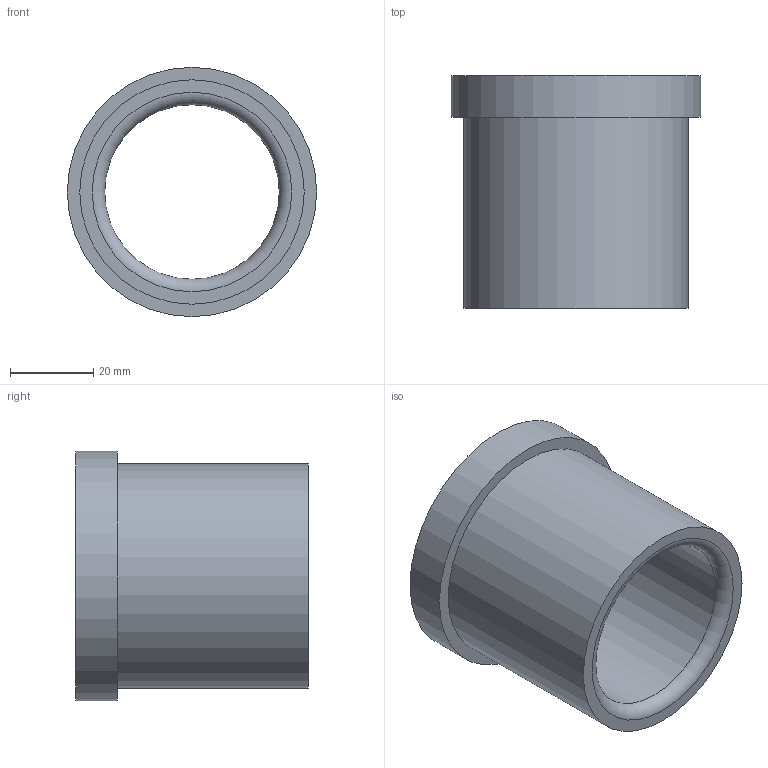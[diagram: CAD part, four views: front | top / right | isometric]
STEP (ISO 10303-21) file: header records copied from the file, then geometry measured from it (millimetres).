
FILE_DESCRIPTION(/* description */ ('STEP AP214'),/* implementation_level */ '2;1');
FILE_NAME(/* name */ '03_12_17955',/* time_stamp */ '2023-06-15T11:35:44+02:00',/* author */ ('License CC BY-ND 4.0'),/* organization */ ('CADENAS'),/* preprocessor_version */ 'ST-DEVELOPER v19.3',/* originating_system */ 'PARTsolutions',/* authorisation */ ' ');
FILE_SCHEMA (('AUTOMOTIVE_DESIGN {1 0 10303 214 3 1 1}'));
Length unit declared in the file: millimetre
Products named in the file (1): VA_Bushing_17955
Bounding box: 60 x 56 x 60 mm (x, y, z)
Volume: 55063.6 mm3; surface area: 19648.6 mm2
Topology: 1 solids, 1 shells, 10 faces, 16 edges, 10 vertices
Faces by surface type: cylinder 4, plane 4, torus 2
Full cylindrical faces by diameter (mm): 42 x1, 42.6 x1, 54 x1, 60 x1
Entity records: 302 total; most frequent: DIRECTION 42, CARTESIAN_POINT 31, AXIS2_PLACEMENT_3D 21, ORIENTED_EDGE 20, EDGE_LOOP 20, FACE_BOUND 20, EDGE_CURVE 10, VERTEX_POINT 10
